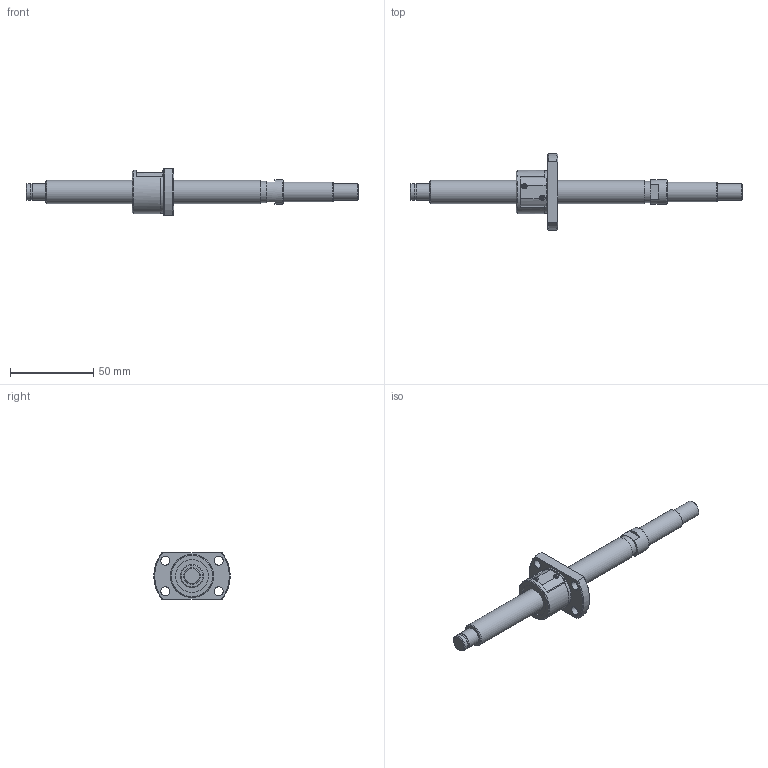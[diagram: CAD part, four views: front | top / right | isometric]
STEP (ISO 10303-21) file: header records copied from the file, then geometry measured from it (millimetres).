
FILE_DESCRIPTION(/* description */ ('STEP AP214'),/* implementation_level */ '2;1');
FILE_NAME(/* name */ 'SG1402-129R200C3B0X(52)',/* time_stamp */ '2026-07-24T20:59:38+02:00',/* author */ ('License CC BY-ND 4.0'),/* organization */ ('CADENAS'),/* preprocessor_version */ 'ST-DEVELOPER v20',/* originating_system */ 'PARTsolutions',/* authorisation */ ' ');
FILE_SCHEMA (('AUTOMOTIVE_DESIGN {1 0 10303 214 3 1 1}'));
Length unit declared in the file: millimetre
Products named in the file (3): SG1402-129R200C3B0X(52); SG1402-129R200C3B_shaft; SG1402_nut
Assembly tree (2 placements, depth 2):
  SG1402-129R200C3B0X(52)
    SG1402-129R200C3B_shaft
    SG1402_nut
Bounding box: 200 x 46 x 28 mm (x, y, z)
Volume: 39790.4 mm3; surface area: 14461.5 mm2
Topology: 2 solids, 2 shells, 85 faces, 201 edges, 131 vertices
Faces by surface type: plane 41, cylinder 29, cone 14, torus 1
Full cylindrical faces by diameter (mm): 5.5 x4, 9.6 x1, 10 x3, 12 x1, 12.77 x1, 14 x2, 15 x1, 20 x2, 25.6 x1, 26 x1
Entity records: 2355 total; most frequent: CARTESIAN_POINT 432, DIRECTION 404, ORIENTED_EDGE 326, AXIS2_PLACEMENT_3D 171, EDGE_CURVE 163, EDGE_LOOP 134, FACE_BOUND 134, VERTEX_POINT 121
